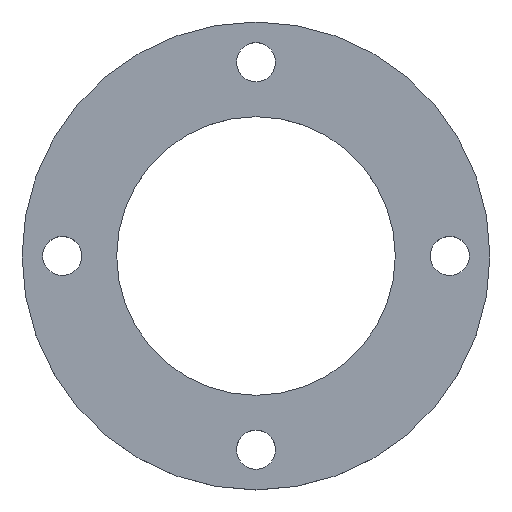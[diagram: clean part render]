
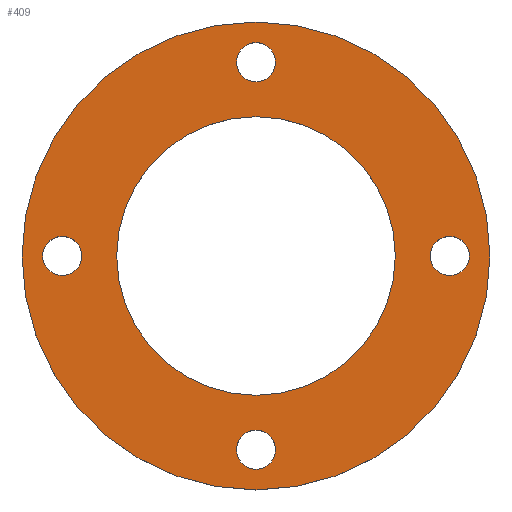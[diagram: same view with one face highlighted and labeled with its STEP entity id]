
A CAD part, top view. The second image highlights one B-rep face of the part: STEP entity #409.
In plain terms, the highlighted planar face has unit normal (0, 0, 1).
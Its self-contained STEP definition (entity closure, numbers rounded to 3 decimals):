
#4 = CIRCLE ( 'NONE', #488, 9. ) ;
#6 = CIRCLE ( 'NONE', #147, 9. ) ;
#9 = CIRCLE ( 'NONE', #356, 9. ) ;
#11 = FACE_OUTER_BOUND ( 'NONE', #231, .T. ) ;
#13 = FACE_BOUND ( 'NONE', #275, .T. ) ;
#21 = CARTESIAN_POINT ( 'NONE',  ( -89., 0., 13. ) ) ;
#27 = DIRECTION ( 'NONE',  ( 1., 0., 0. ) ) ;
#35 = CARTESIAN_POINT ( 'NONE',  ( 80., 0., 13. ) ) ;
#41 = CARTESIAN_POINT ( 'NONE',  ( 0., 0., 13. ) ) ;
#43 = ORIENTED_EDGE ( 'NONE', *, *, #223, .T. ) ;
#44 = PLANE ( 'NONE',  #153 ) ;
#46 = DIRECTION ( 'NONE',  ( 0., 0., 1. ) ) ;
#51 = CARTESIAN_POINT ( 'NONE',  ( 0., -89., 13. ) ) ;
#63 = AXIS2_PLACEMENT_3D ( 'NONE', #420, #344, #474 ) ;
#68 = CARTESIAN_POINT ( 'NONE',  ( 89., 0., 13. ) ) ;
#73 = AXIS2_PLACEMENT_3D ( 'NONE', #144, #46, #294 ) ;
#79 = ORIENTED_EDGE ( 'NONE', *, *, #472, .F. ) ;
#80 = DIRECTION ( 'NONE',  ( 0., 0., 1. ) ) ;
#87 = VERTEX_POINT ( 'NONE', #346 ) ;
#89 = ORIENTED_EDGE ( 'NONE', *, *, #266, .F. ) ;
#93 = CARTESIAN_POINT ( 'NONE',  ( 9., 89., 13. ) ) ;
#95 = VERTEX_POINT ( 'NONE', #159 ) ;
#99 = DIRECTION ( 'NONE',  ( 0., 0., 1. ) ) ;
#109 = EDGE_LOOP ( 'NONE', ( #382, #433 ) ) ;
#113 = VERTEX_POINT ( 'NONE', #251 ) ;
#114 = CIRCLE ( 'NONE', #504, 107.5 ) ;
#115 = ORIENTED_EDGE ( 'NONE', *, *, #170, .F. ) ;
#118 = VERTEX_POINT ( 'NONE', #341 ) ;
#120 = EDGE_CURVE ( 'NONE', #484, #273, #124, .T. ) ;
#121 = CARTESIAN_POINT ( 'NONE',  ( 0., 0., 13. ) ) ;
#124 = CIRCLE ( 'NONE', #167, 64. ) ;
#128 = ORIENTED_EDGE ( 'NONE', *, *, #140, .F. ) ;
#132 = CIRCLE ( 'NONE', #510, 9. ) ;
#140 = EDGE_CURVE ( 'NONE', #228, #267, #463, .T. ) ;
#144 = CARTESIAN_POINT ( 'NONE',  ( 0., 89., 13. ) ) ;
#146 = CARTESIAN_POINT ( 'NONE',  ( 0., 0., 13. ) ) ;
#147 = AXIS2_PLACEMENT_3D ( 'NONE', #68, #177, #334 ) ;
#153 = AXIS2_PLACEMENT_3D ( 'NONE', #121, #298, #305 ) ;
#159 = CARTESIAN_POINT ( 'NONE',  ( 9., -89., 13. ) ) ;
#163 = DIRECTION ( 'NONE',  ( 0., 0., 1. ) ) ;
#165 = DIRECTION ( 'NONE',  ( 0., 0., 1. ) ) ;
#167 = AXIS2_PLACEMENT_3D ( 'NONE', #146, #163, #467 ) ;
#168 = EDGE_CURVE ( 'NONE', #95, #425, #132, .T. ) ;
#169 = DIRECTION ( 'NONE',  ( 0., 0., 1. ) ) ;
#170 = EDGE_CURVE ( 'NONE', #273, #484, #491, .T. ) ;
#173 = DIRECTION ( 'NONE',  ( 1., 0., 0. ) ) ;
#175 = CARTESIAN_POINT ( 'NONE',  ( -64., 0., 13. ) ) ;
#177 = DIRECTION ( 'NONE',  ( 0., 0., 1. ) ) ;
#193 = CIRCLE ( 'NONE', #497, 107.5 ) ;
#196 = CARTESIAN_POINT ( 'NONE',  ( 0., -89., 13. ) ) ;
#197 = FACE_BOUND ( 'NONE', #255, .T. ) ;
#201 = CIRCLE ( 'NONE', #435, 9. ) ;
#202 = EDGE_CURVE ( 'NONE', #443, #389, #319, .T. ) ;
#205 = DIRECTION ( 'NONE',  ( 1., 0., 0. ) ) ;
#208 = CARTESIAN_POINT ( 'NONE',  ( -9., 89., 13. ) ) ;
#209 = DIRECTION ( 'NONE',  ( 0., 0., 1. ) ) ;
#213 = ORIENTED_EDGE ( 'NONE', *, *, #234, .F. ) ;
#223 = EDGE_CURVE ( 'NONE', #113, #118, #193, .T. ) ;
#228 = VERTEX_POINT ( 'NONE', #35 ) ;
#231 = EDGE_LOOP ( 'NONE', ( #43, #430 ) ) ;
#233 = DIRECTION ( 'NONE',  ( 0., 0., 1. ) ) ;
#234 = EDGE_CURVE ( 'NONE', #267, #228, #6, .T. ) ;
#242 = DIRECTION ( 'NONE',  ( 1., 0., 0. ) ) ;
#247 = CARTESIAN_POINT ( 'NONE',  ( 0., 0., 13. ) ) ;
#248 = AXIS2_PLACEMENT_3D ( 'NONE', #41, #165, #242 ) ;
#251 = CARTESIAN_POINT ( 'NONE',  ( -107.5, 0., 13. ) ) ;
#252 = DIRECTION ( 'NONE',  ( 1., 0., 0. ) ) ;
#255 = EDGE_LOOP ( 'NONE', ( #439, #264 ) ) ;
#260 = CARTESIAN_POINT ( 'NONE',  ( 98., 0., 13. ) ) ;
#264 = ORIENTED_EDGE ( 'NONE', *, *, #168, .F. ) ;
#266 = EDGE_CURVE ( 'NONE', #444, #87, #9, .T. ) ;
#267 = VERTEX_POINT ( 'NONE', #260 ) ;
#273 = VERTEX_POINT ( 'NONE', #412 ) ;
#275 = EDGE_LOOP ( 'NONE', ( #89, #79 ) ) ;
#294 = DIRECTION ( 'NONE',  ( 1., 0., 0. ) ) ;
#298 = DIRECTION ( 'NONE',  ( 0., 0., 1. ) ) ;
#305 = DIRECTION ( 'NONE',  ( 1., 0., 0. ) ) ;
#312 = DIRECTION ( 'NONE',  ( 1., 0., 0. ) ) ;
#318 = DIRECTION ( 'NONE',  ( 0., 0., 1. ) ) ;
#319 = CIRCLE ( 'NONE', #73, 9. ) ;
#326 = EDGE_CURVE ( 'NONE', #425, #95, #4, .T. ) ;
#334 = DIRECTION ( 'NONE',  ( 1., 0., 0. ) ) ;
#341 = CARTESIAN_POINT ( 'NONE',  ( 107.5, 0., 13. ) ) ;
#344 = DIRECTION ( 'NONE',  ( 0., 0., 1. ) ) ;
#346 = CARTESIAN_POINT ( 'NONE',  ( -80., 0., 13. ) ) ;
#356 = AXIS2_PLACEMENT_3D ( 'NONE', #464, #233, #252 ) ;
#358 = FACE_BOUND ( 'NONE', #393, .T. ) ;
#359 = CARTESIAN_POINT ( 'NONE',  ( 0., 89., 13. ) ) ;
#364 = FACE_BOUND ( 'NONE', #109, .T. ) ;
#366 = FACE_BOUND ( 'NONE', #434, .T. ) ;
#368 = CIRCLE ( 'NONE', #378, 9. ) ;
#371 = EDGE_CURVE ( 'NONE', #118, #113, #114, .T. ) ;
#378 = AXIS2_PLACEMENT_3D ( 'NONE', #21, #169, #406 ) ;
#382 = ORIENTED_EDGE ( 'NONE', *, *, #202, .F. ) ;
#389 = VERTEX_POINT ( 'NONE', #93 ) ;
#393 = EDGE_LOOP ( 'NONE', ( #448, #115 ) ) ;
#401 = CARTESIAN_POINT ( 'NONE',  ( -98., 0., 13. ) ) ;
#406 = DIRECTION ( 'NONE',  ( 1., 0., 0. ) ) ;
#409 = ADVANCED_FACE ( 'NONE', ( #197, #364, #11, #358, #366, #13 ), #44, .T. ) ;
#411 = CARTESIAN_POINT ( 'NONE',  ( -9., -89., 13. ) ) ;
#412 = CARTESIAN_POINT ( 'NONE',  ( 64., 0., 13. ) ) ;
#420 = CARTESIAN_POINT ( 'NONE',  ( 89., 0., 13. ) ) ;
#422 = DIRECTION ( 'NONE',  ( 0., 0., 1. ) ) ;
#425 = VERTEX_POINT ( 'NONE', #411 ) ;
#430 = ORIENTED_EDGE ( 'NONE', *, *, #371, .T. ) ;
#433 = ORIENTED_EDGE ( 'NONE', *, *, #489, .F. ) ;
#434 = EDGE_LOOP ( 'NONE', ( #128, #213 ) ) ;
#435 = AXIS2_PLACEMENT_3D ( 'NONE', #359, #80, #205 ) ;
#439 = ORIENTED_EDGE ( 'NONE', *, *, #326, .F. ) ;
#443 = VERTEX_POINT ( 'NONE', #208 ) ;
#444 = VERTEX_POINT ( 'NONE', #401 ) ;
#448 = ORIENTED_EDGE ( 'NONE', *, *, #120, .F. ) ;
#463 = CIRCLE ( 'NONE', #63, 9. ) ;
#464 = CARTESIAN_POINT ( 'NONE',  ( -89., 0., 13. ) ) ;
#467 = DIRECTION ( 'NONE',  ( 1., 0., 0. ) ) ;
#472 = EDGE_CURVE ( 'NONE', #87, #444, #368, .T. ) ;
#474 = DIRECTION ( 'NONE',  ( 1., 0., 0. ) ) ;
#484 = VERTEX_POINT ( 'NONE', #175 ) ;
#488 = AXIS2_PLACEMENT_3D ( 'NONE', #196, #318, #312 ) ;
#489 = EDGE_CURVE ( 'NONE', #389, #443, #201, .T. ) ;
#491 = CIRCLE ( 'NONE', #248, 64. ) ;
#497 = AXIS2_PLACEMENT_3D ( 'NONE', #247, #422, #509 ) ;
#503 = CARTESIAN_POINT ( 'NONE',  ( 0., 0., 13. ) ) ;
#504 = AXIS2_PLACEMENT_3D ( 'NONE', #503, #99, #27 ) ;
#509 = DIRECTION ( 'NONE',  ( 1., 0., 0. ) ) ;
#510 = AXIS2_PLACEMENT_3D ( 'NONE', #51, #209, #173 ) ;
